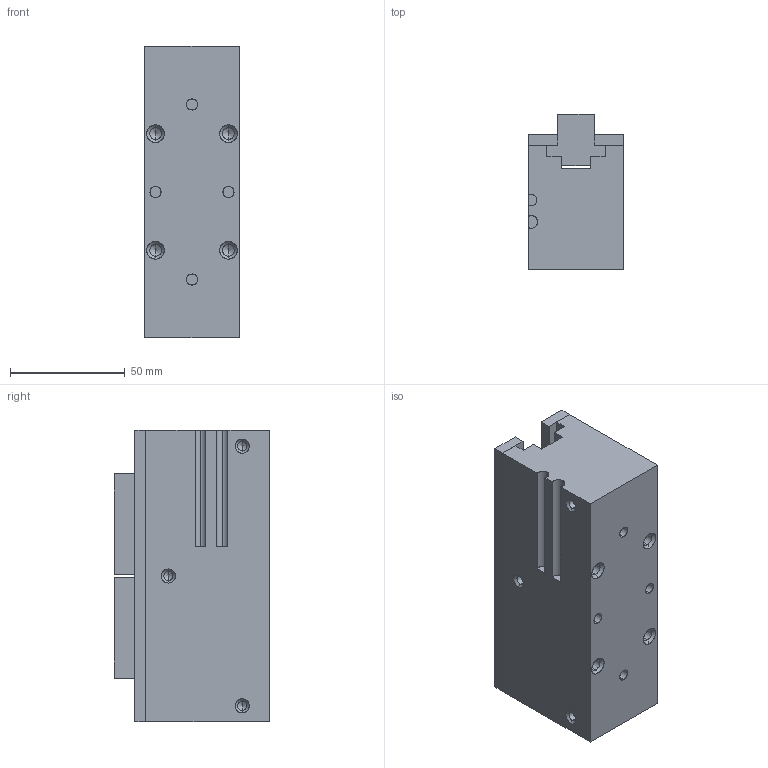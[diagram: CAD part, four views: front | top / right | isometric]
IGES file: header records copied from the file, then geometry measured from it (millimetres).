
Start section: SolidWorks IGES file using analytic representation for surfaces
Global section: file name: C:\Users\User\Downloads\AGLP-8\AGLP-8\iges\AGLP-8-500-closed.IGS; native system: SolidWorks 2016; preprocessor: SolidWorks 2016; author: User; date: 200430.164425; units: inch
Bounding box: 41.27 x 67.57 x 127 mm (x, y, z)
Surface area: 55175.9 mm2 (no closed solid volume)
Topology: 0 solids, 0 shells, 200 faces, 2772 edges, 2750 vertices
Faces by surface type: revolution 118, bspline 82
